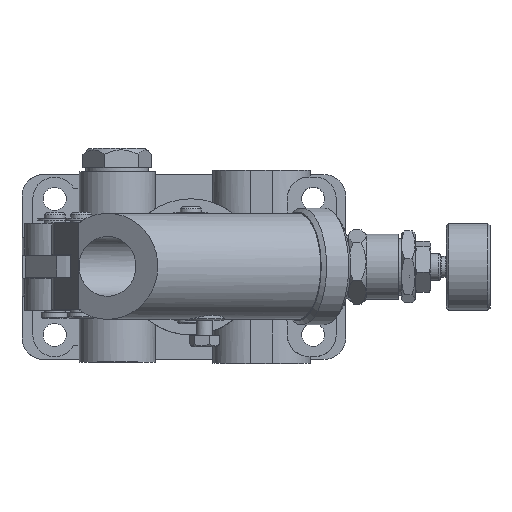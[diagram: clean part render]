
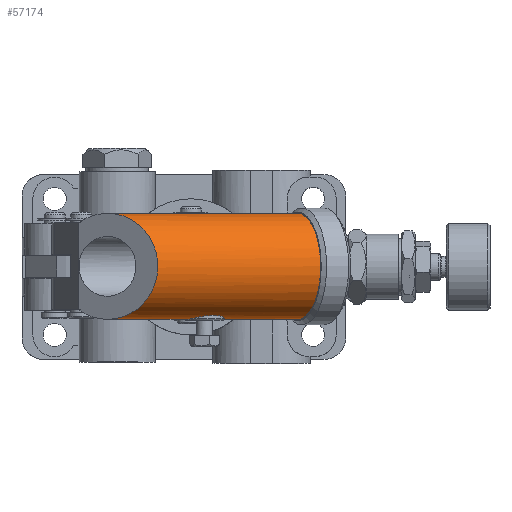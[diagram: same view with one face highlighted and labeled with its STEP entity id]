
A CAD part, top view. The second image highlights one B-rep face of the part: STEP entity #57174.
In plain terms, the highlighted cylindrical face has radius 19.48 mm (diameter 38.961 mm), a partial arc.
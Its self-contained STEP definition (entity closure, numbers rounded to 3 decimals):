
#185=ELLIPSE('',#60336,20.731,19.481);
#186=ELLIPSE('',#60341,20.731,19.481);
#187=ELLIPSE('',#60344,20.731,19.481);
#188=ELLIPSE('',#60347,22.494,19.481);
#189=ELLIPSE('',#60350,20.731,19.481);
#314=B_SPLINE_CURVE_WITH_KNOTS('',3,(#85565,#85566,#85567,#85568,#85569,
#85570),.UNSPECIFIED.,.F.,.F.,(4,1,1,4),(0.039,0.043,
0.045,0.047),.UNSPECIFIED.);
#315=B_SPLINE_CURVE_WITH_KNOTS('',3,(#85572,#85573,#85574,#85575,#85576),
 .UNSPECIFIED.,.F.,.F.,(4,1,4),(0.,0.004,0.009),
 .UNSPECIFIED.);
#316=B_SPLINE_CURVE_WITH_KNOTS('',3,(#85580,#85581,#85582,#85583,#85584),
 .UNSPECIFIED.,.F.,.F.,(4,1,4),(0.032,0.035,0.039),
 .UNSPECIFIED.);
#317=B_SPLINE_CURVE_WITH_KNOTS('',3,(#85586,#85587,#85588,#85589,#85590,
#85591,#85592),.UNSPECIFIED.,.F.,.F.,(4,1,1,1,4),(0.015,0.019,
0.024,0.028,0.032),.UNSPECIFIED.);
#318=B_SPLINE_CURVE_WITH_KNOTS('',3,(#85594,#85595,#85596,#85597,#85598),
 .UNSPECIFIED.,.F.,.F.,(4,1,4),(0.009,0.012,
0.015),.UNSPECIFIED.);
#5056=LINE('',#85532,#9810);
#5057=LINE('',#85533,#9811);
#5061=LINE('',#85543,#9815);
#5062=LINE('',#85545,#9816);
#5064=LINE('',#85551,#9818);
#5065=LINE('',#85555,#9819);
#5068=LINE('',#85563,#9822);
#9810=VECTOR('',#71369,1000.);
#9811=VECTOR('',#71370,1000.);
#9815=VECTOR('',#71380,1000.);
#9816=VECTOR('',#71381,1000.);
#9818=VECTOR('',#71389,1000.);
#9819=VECTOR('',#71396,1000.);
#9822=VECTOR('',#71405,1000.);
#23244=ORIENTED_EDGE('',*,*,#29124,.F.);
#23245=ORIENTED_EDGE('',*,*,#29123,.T.);
#23246=ORIENTED_EDGE('',*,*,#29120,.T.);
#23247=ORIENTED_EDGE('',*,*,#29119,.T.);
#23248=ORIENTED_EDGE('',*,*,#29118,.F.);
#23249=ORIENTED_EDGE('',*,*,#29116,.T.);
#23250=ORIENTED_EDGE('',*,*,#29115,.F.);
#23251=ORIENTED_EDGE('',*,*,#29125,.F.);
#23252=ORIENTED_EDGE('',*,*,#29128,.F.);
#23253=ORIENTED_EDGE('',*,*,#29129,.F.);
#23254=ORIENTED_EDGE('',*,*,#29130,.F.);
#23255=ORIENTED_EDGE('',*,*,#29126,.F.);
#23256=ORIENTED_EDGE('',*,*,#29114,.F.);
#23257=ORIENTED_EDGE('',*,*,#29112,.F.);
#23258=ORIENTED_EDGE('',*,*,#29109,.T.);
#23259=ORIENTED_EDGE('',*,*,#29106,.T.);
#23260=ORIENTED_EDGE('',*,*,#29108,.T.);
#23261=ORIENTED_EDGE('',*,*,#29104,.F.);
#29104=EDGE_CURVE('',#32987,#32988,#185,.T.);
#29106=EDGE_CURVE('',#32989,#32990,#33926,.T.);
#29108=EDGE_CURVE('',#32990,#32988,#5056,.F.);
#29109=EDGE_CURVE('',#32991,#32989,#5057,.T.);
#29112=EDGE_CURVE('',#32991,#32992,#186,.T.);
#29114=EDGE_CURVE('',#32992,#32994,#5061,.F.);
#29115=EDGE_CURVE('',#32994,#32993,#5062,.F.);
#29116=EDGE_CURVE('',#32995,#32993,#187,.T.);
#29118=EDGE_CURVE('',#32995,#32968,#5064,.F.);
#29119=EDGE_CURVE('',#32969,#32968,#188,.T.);
#29120=EDGE_CURVE('',#32996,#32969,#5065,.F.);
#29123=EDGE_CURVE('',#32997,#32996,#189,.T.);
#29124=EDGE_CURVE('',#32997,#32987,#5068,.T.);
#29125=EDGE_CURVE('',#32998,#32994,#314,.T.);
#29126=EDGE_CURVE('',#32994,#32999,#315,.T.);
#29128=EDGE_CURVE('',#33000,#32998,#316,.T.);
#29129=EDGE_CURVE('',#33001,#33000,#317,.T.);
#29130=EDGE_CURVE('',#32999,#33001,#318,.T.);
#32968=VERTEX_POINT('',#85463);
#32969=VERTEX_POINT('',#85465);
#32987=VERTEX_POINT('',#85522);
#32988=VERTEX_POINT('',#85524);
#32989=VERTEX_POINT('',#85528);
#32990=VERTEX_POINT('',#85529);
#32991=VERTEX_POINT('',#85534);
#32992=VERTEX_POINT('',#85538);
#32993=VERTEX_POINT('',#85542);
#32994=VERTEX_POINT('',#85544);
#32995=VERTEX_POINT('',#85548);
#32996=VERTEX_POINT('',#85556);
#32997=VERTEX_POINT('',#85560);
#32998=VERTEX_POINT('',#85571);
#32999=VERTEX_POINT('',#85577);
#33000=VERTEX_POINT('',#85585);
#33001=VERTEX_POINT('',#85593);
#33926=CIRCLE('',#60338,19.481);
#36835=EDGE_LOOP('',(#23244,#23245,#23246,#23247,#23248,#23249,#23250,#23251,
#23252,#23253,#23254,#23255,#23256,#23257,#23258,#23259,#23260,#23261));
#39762=FACE_BOUND('',#36835,.T.);
#40051=CYLINDRICAL_SURFACE('',#60354,19.481);
#57174=ADVANCED_FACE('',(#39762),#40051,.T.);
#60336=AXIS2_PLACEMENT_3D('',#85523,#71359,#71360);
#60338=AXIS2_PLACEMENT_3D('',#85527,#71364,#71365);
#60341=AXIS2_PLACEMENT_3D('',#85539,#71375,#71376);
#60344=AXIS2_PLACEMENT_3D('',#85547,#71384,#71385);
#60347=AXIS2_PLACEMENT_3D('',#85553,#71392,#71393);
#60350=AXIS2_PLACEMENT_3D('',#85561,#71401,#71402);
#60354=AXIS2_PLACEMENT_3D('',#85579,#71410,#71411);
#71359=DIRECTION('',(-0.702,0.,0.712));
#71360=DIRECTION('',(0.712,0.,0.702));
#71364=DIRECTION('',(-0.903,0.,0.429));
#71365=DIRECTION('',(0.429,0.,0.903));
#71369=DIRECTION('',(0.903,0.,-0.429));
#71370=DIRECTION('',(0.903,0.,-0.429));
#71375=DIRECTION('',(-0.702,0.,0.712));
#71376=DIRECTION('',(0.712,0.,0.702));
#71380=DIRECTION('',(0.903,0.,-0.429));
#71381=DIRECTION('',(0.903,0.,-0.429));
#71384=DIRECTION('',(-0.996,0.,0.094));
#71385=DIRECTION('',(-0.094,0.,-0.996));
#71389=DIRECTION('',(0.903,0.,-0.429));
#71392=DIRECTION('',(0.568,0.,-0.823));
#71393=DIRECTION('',(0.823,0.,0.568));
#71396=DIRECTION('',(0.903,0.,-0.429));
#71401=DIRECTION('',(-0.996,0.,0.094));
#71402=DIRECTION('',(-0.094,0.,-0.996));
#71405=DIRECTION('',(0.903,0.,-0.429));
#71410=DIRECTION('',(0.903,0.,-0.429));
#71411=DIRECTION('',(-0.429,0.,-0.903));
#85463=CARTESIAN_POINT('',(-41.164,-15.984,138.41));
#85465=CARTESIAN_POINT('',(-41.164,15.984,138.41));
#85522=CARTESIAN_POINT('',(35.198,17.982,106.214));
#85523=CARTESIAN_POINT('',(40.873,0.,111.814));
#85524=CARTESIAN_POINT('',(27.252,7.492,98.374));
#85527=CARTESIAN_POINT('',(39.426,0.,112.501));
#85528=CARTESIAN_POINT('',(31.718,-7.493,96.255));
#85529=CARTESIAN_POINT('',(31.718,7.492,96.255));
#85532=CARTESIAN_POINT('',(-44.098,7.492,132.224));
#85533=CARTESIAN_POINT('',(-44.098,-7.493,132.224));
#85534=CARTESIAN_POINT('',(27.252,-7.493,98.374));
#85538=CARTESIAN_POINT('',(35.198,-17.982,106.214));
#85539=CARTESIAN_POINT('',(40.873,0.,111.814));
#85542=CARTESIAN_POINT('',(-11.063,-17.982,128.162));
#85543=CARTESIAN_POINT('',(-39.602,-17.982,141.701));
#85544=CARTESIAN_POINT('',(1.916,-17.982,122.004));
#85545=CARTESIAN_POINT('',(-39.602,-17.982,141.701));
#85547=CARTESIAN_POINT('',(-10.316,0.,136.1));
#85548=CARTESIAN_POINT('',(-11.427,-15.984,124.302));
#85551=CARTESIAN_POINT('',(-41.164,-15.984,138.41));
#85553=CARTESIAN_POINT('',(-30.582,0.,145.715));
#85555=CARTESIAN_POINT('',(-41.164,15.984,138.41));
#85556=CARTESIAN_POINT('',(-11.427,15.984,124.302));
#85560=CARTESIAN_POINT('',(-11.063,17.982,128.162));
#85561=CARTESIAN_POINT('',(-10.316,0.,136.1));
#85563=CARTESIAN_POINT('',(-39.602,17.982,141.701));
#85565=CARTESIAN_POINT('',(-2.364,-19.231,128.886));
#85566=CARTESIAN_POINT('',(-2.385,-19.021,127.459));
#85567=CARTESIAN_POINT('',(-1.797,-18.538,125.331));
#85568=CARTESIAN_POINT('',(0.063,-18.071,123.114));
#85569=CARTESIAN_POINT('',(1.257,-17.982,122.317));
#85570=CARTESIAN_POINT('',(1.916,-17.982,122.004));
#85571=CARTESIAN_POINT('',(-2.364,-19.231,128.886));
#85572=CARTESIAN_POINT('',(1.916,-17.982,122.004));
#85573=CARTESIAN_POINT('',(3.235,-17.982,121.378));
#85574=CARTESIAN_POINT('',(6.165,-18.372,120.937));
#85575=CARTESIAN_POINT('',(8.868,-19.022,122.127));
#85576=CARTESIAN_POINT('',(9.954,-19.231,123.042));
#85577=CARTESIAN_POINT('',(9.954,-19.231,123.042));
#85579=CARTESIAN_POINT('',(-36.39,0.,148.471));
#85580=CARTESIAN_POINT('',(0.302,-19.231,134.504));
#85581=CARTESIAN_POINT('',(-0.516,-19.388,133.816));
#85582=CARTESIAN_POINT('',(-1.851,-19.574,132.089));
#85583=CARTESIAN_POINT('',(-2.348,-19.387,129.946));
#85584=CARTESIAN_POINT('',(-2.364,-19.231,128.886));
#85585=CARTESIAN_POINT('',(0.302,-19.231,134.504));
#85586=CARTESIAN_POINT('',(12.62,-19.231,128.66));
#85587=CARTESIAN_POINT('',(12.641,-19.02,130.096));
#85588=CARTESIAN_POINT('',(11.864,-18.374,132.909));
#85589=CARTESIAN_POINT('',(8.532,-17.786,135.931));
#85590=CARTESIAN_POINT('',(4.071,-18.373,136.608));
#85591=CARTESIAN_POINT('',(1.402,-19.019,135.431));
#85592=CARTESIAN_POINT('',(0.302,-19.231,134.504));
#85593=CARTESIAN_POINT('',(12.62,-19.231,128.66));
#85594=CARTESIAN_POINT('',(9.954,-19.231,123.042));
#85595=CARTESIAN_POINT('',(10.761,-19.386,123.721));
#85596=CARTESIAN_POINT('',(12.108,-19.574,125.456));
#85597=CARTESIAN_POINT('',(12.603,-19.388,127.594));
#85598=CARTESIAN_POINT('',(12.62,-19.231,128.66));
